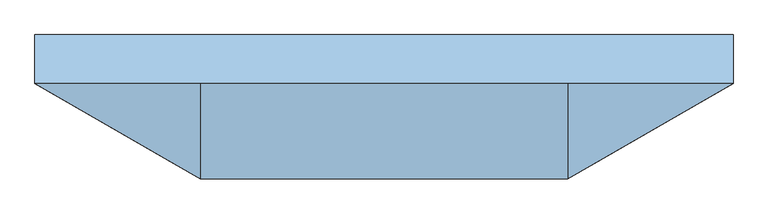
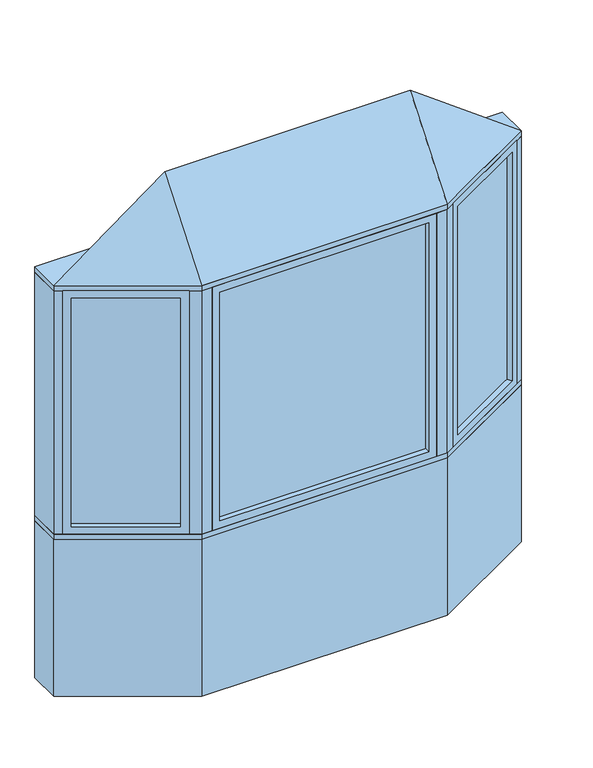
"""IFC4 building model written with IfcOpenShell, lengths in millimetres: window geometry, Pollard_Windows_Tudor Casement Bows and Bays : AML-BAY 30 AFR0512-12-500."""

from ifc_helpers import new_model, si_unit, frame, origin, origin_with_axes, place, context, project, spatial, polyline, outline, extrude, faceted_brep, source, transform, mapped, element, save


def window_68b13da7(model_context):
    return source(origin(), model_context, "Body", "SolidModel", [
        extrude(outline(polyline([(1026.612102, -82.0482469), (623.7320119, -314.6511754), (621.1920119, -310.2517664), (1024.072102, -77.6488379), (1026.612102, -82.0482469)])), frame((0.0, 0.0, 823.1628), z_axis=(0.0, 0.0, 1.0), x_axis=(1.0, 0.0, 0.0)), (0.0, 0.0, 1.0), 1153.6704),
        faceted_brep([(1015.6135794, -88.3982469, 835.8628), (1028.3135794, -110.3952922, 835.8628), (1028.3135794, -110.3952922, 1964.1332), (1015.6135794, -88.3982469, 1964.1332), (1024.072102, -77.6488379, 823.1628), (1026.612102, -82.0482469, 823.1628), (1026.612102, -82.0482469, 1976.8332), (1024.072102, -77.6488379, 1976.8332), (1000.3735794, -62.0017926, 835.8628), (1013.0735794, -83.9988379, 835.8628), (1013.0735794, -83.9988379, 1964.1332), (1000.3735794, -62.0017926, 1964.1332), (1059.3734073, -92.4628922, 799.998), (1031.4334073, -44.0693926, 799.998), (1031.4334073, -44.0693926, 1999.998), (1059.3734073, -92.4628922, 1999.998), (647.4305346, -330.2982207, 1964.1332), (634.7305346, -308.3011754, 1964.1332), (623.7320119, -314.6511754, 1976.8332), (621.1920119, -310.2517664, 1976.8332), (632.1905346, -303.9017664, 1964.1332), (619.4905346, -281.9047211, 1964.1332), (588.4307067, -299.8371211, 1999.998), (616.3707067, -348.2306207, 1999.998), (647.4305346, -330.2982207, 835.8628), (634.7305346, -308.3011754, 835.8628), (623.7320119, -314.6511754, 823.1628), (621.1920119, -310.2517664, 823.1628), (632.1905346, -303.9017664, 835.8628), (619.4905346, -281.9047211, 835.8628), (588.4307067, -299.8371211, 799.998), (616.3707067, -348.2306207, 799.998)], [[[0, 1, 2, 3]], [[4, 5, 6, 7]], [[8, 9, 10, 11]], [[12, 13, 14, 15]], [[3, 2, 16, 17]], [[7, 6, 18, 19]], [[11, 10, 20, 21]], [[15, 14, 22, 23]], [[17, 16, 24, 25]], [[19, 18, 26, 27]], [[21, 20, 28, 29]], [[23, 22, 30, 31]], [[25, 24, 1, 0]], [[5, 26, 18, 6], [3, 17, 25, 0]], [[27, 26, 5, 4]], [[7, 19, 27, 4], [9, 28, 20, 10]], [[29, 28, 9, 8]], [[13, 30, 22, 14], [11, 21, 29, 8]], [[31, 30, 13, 12]], [[15, 23, 31, 12], [1, 24, 16, 2]]]),
        extrude(outline(polyline([(-623.7320119, -314.6511754), (-1026.612102, -82.0482469), (-1024.072102, -77.6488379), (-621.1920119, -310.2517664), (-623.7320119, -314.6511754)])), frame((0.0, 0.0, 823.1628), z_axis=(0.0, 0.0, 1.0), x_axis=(1.0, 0.0, 0.0)), (0.0, 0.0, 1.0), 1153.6704),
        faceted_brep([(-632.1905346, -303.9017664, 1964.1332), (-619.4905346, -281.9047211, 1964.1332), (-619.4905346, -281.9047211, 835.8628), (-632.1905346, -303.9017664, 835.8628), (-623.7320119, -314.6511754, 1976.8332), (-621.1920119, -310.2517664, 1976.8332), (-621.1920119, -310.2517664, 823.1628), (-623.7320119, -314.6511754, 823.1628), (-647.4305346, -330.2982207, 1964.1332), (-634.7305346, -308.3011754, 1964.1332), (-634.7305346, -308.3011754, 835.8628), (-647.4305346, -330.2982207, 835.8628), (-588.4307067, -299.8371211, 1999.998), (-616.3707067, -348.2306207, 1999.998), (-616.3707067, -348.2306207, 799.998), (-588.4307067, -299.8371211, 799.998), (-1000.3735794, -62.0017926, 835.8628), (-1013.0735794, -83.9988379, 835.8628), (-1024.072102, -77.6488379, 823.1628), (-1026.612102, -82.0482469, 823.1628), (-1015.6135794, -88.3982469, 835.8628), (-1028.3135794, -110.3952922, 835.8628), (-1059.3734073, -92.4628922, 799.998), (-1031.4334073, -44.0693926, 799.998), (-1000.3735794, -62.0017926, 1964.1332), (-1013.0735794, -83.9988379, 1964.1332), (-1024.072102, -77.6488379, 1976.8332), (-1026.612102, -82.0482469, 1976.8332), (-1015.6135794, -88.3982469, 1964.1332), (-1028.3135794, -110.3952922, 1964.1332), (-1059.3734073, -92.4628922, 1999.998), (-1031.4334073, -44.0693926, 1999.998)], [[[0, 1, 2, 3]], [[4, 5, 6, 7]], [[8, 9, 10, 11]], [[12, 13, 14, 15]], [[3, 2, 16, 17]], [[7, 6, 18, 19]], [[11, 10, 20, 21]], [[15, 14, 22, 23]], [[17, 16, 24, 25]], [[19, 18, 26, 27]], [[21, 20, 28, 29]], [[23, 22, 30, 31]], [[15, 23, 31, 12], [1, 24, 16, 2]], [[25, 24, 1, 0]], [[5, 26, 18, 6], [3, 17, 25, 0]], [[27, 26, 5, 4]], [[7, 19, 27, 4], [9, 28, 20, 10]], [[29, 28, 9, 8]], [[13, 30, 22, 14], [11, 21, 29, 8]], [[31, 30, 13, 12]]]),
        extrude(outline(polyline([(499.9046365, -347.8306207), (-499.9046365, -347.8306207), (-499.9046365, -342.7506207), (499.9046365, -342.7506207), (499.9046365, -347.8306207)])), frame((0.0, 0.0, 823.1628), z_axis=(0.0, 0.0, 1.0), x_axis=(1.0, 0.0, 0.0)), (0.0, 0.0, 1.0), 1153.6704),
        faceted_brep([(487.2046365, -347.8306207, 835.8628), (487.2046365, -373.2306207, 835.8628), (487.2046365, -373.2306207, 1964.1332), (487.2046365, -347.8306207, 1964.1332), (499.9046365, -342.7506207, 823.1628), (499.9046365, -347.8306207, 823.1628), (499.9046365, -347.8306207, 1976.8332), (499.9046365, -342.7506207, 1976.8332), (487.2046365, -317.3506207, 835.8628), (487.2046365, -342.7506207, 835.8628), (487.2046365, -342.7506207, 1964.1332), (487.2046365, -317.3506207, 1964.1332), (523.0694365, -373.2306207, 799.998), (523.0694365, -317.3506207, 799.998), (523.0694365, -317.3506207, 1999.998), (523.0694365, -373.2306207, 1999.998), (-487.2046365, -373.2306207, 1964.1332), (-487.2046365, -347.8306207, 1964.1332), (-499.9046365, -347.8306207, 1976.8332), (-499.9046365, -342.7506207, 1976.8332), (-487.2046365, -342.7506207, 1964.1332), (-487.2046365, -317.3506207, 1964.1332), (-523.0694365, -317.3506207, 1999.998), (-523.0694365, -373.2306207, 1999.998), (-487.2046365, -373.2306207, 835.8628), (-487.2046365, -347.8306207, 835.8628), (-499.9046365, -347.8306207, 823.1628), (-499.9046365, -342.7506207, 823.1628), (-487.2046365, -342.7506207, 835.8628), (-487.2046365, -317.3506207, 835.8628), (-523.0694365, -317.3506207, 799.998), (-523.0694365, -373.2306207, 799.998)], [[[0, 1, 2, 3]], [[4, 5, 6, 7]], [[8, 9, 10, 11]], [[12, 13, 14, 15]], [[3, 2, 16, 17]], [[7, 6, 18, 19]], [[11, 10, 20, 21]], [[15, 14, 22, 23]], [[17, 16, 24, 25]], [[19, 18, 26, 27]], [[21, 20, 28, 29]], [[23, 22, 30, 31]], [[15, 23, 31, 12], [1, 24, 16, 2]], [[25, 24, 1, 0]], [[5, 26, 18, 6], [3, 17, 25, 0]], [[27, 26, 5, 4]], [[7, 19, 27, 4], [9, 28, 20, 10]], [[29, 28, 9, 8]], [[13, 30, 22, 14], [11, 21, 29, 8]], [[31, 30, 13, 12]]]),
        faceted_brep([(1090.0, -74.7806207, 2025.398), (573.0694365, -373.2306207, 2025.398), (-573.0694365, -373.2306207, 2025.398), (-1090.0, -74.7806207, 2025.398), (-573.0694365, -74.7806207, 2406.398), (573.0694365, -74.7806207, 2406.398)], [[[0, 1, 2, 3]], [[3, 2, 4]], [[2, 1, 5, 4]], [[1, 0, 5]], [[0, 3, 4, 5]]]),
        extrude(outline(polyline([(-1090.0, 77.6193793), (1090.0, 77.6193793), (1090.0, -74.7806207), (573.0694365, -373.2306207), (-573.0694365, -373.2306207), (-1090.0, -74.7806207), (-1090.0, 77.6193793)])), frame((0.0, 0.0, 1999.998), z_axis=(0.0, 0.0, 1.0), x_axis=(1.0, 0.0, 0.0)), (0.0, 0.0, 1.0), 25.4),
        extrude(outline(polyline([(-1090.0, -74.7806207), (-1090.0, 77.6193793), (-1049.1645431, 77.6193793), (-1049.1645431, -74.7806207), (-1059.3734073, -92.4628922), (-1090.0, -74.7806207)])), frame((0.0, 0.0, 799.998), z_axis=(0.0, 0.0, 1.0), x_axis=(1.0, 0.0, 0.0)), (0.0, 0.0, 1.0), 1200.0),
        extrude(outline(polyline([(1090.0, 77.6193793), (1090.0, -74.7806207), (1059.3734073, -92.4628922), (1049.1645431, -74.7806207), (1049.1645431, 77.6193793), (1090.0, 77.6193793)])), frame((0.0, 0.0, 799.998), z_axis=(0.0, 0.0, 1.0), x_axis=(1.0, 0.0, 0.0)), (0.0, 0.0, 1.0), 1200.0),
        extrude(outline(polyline([(573.0694365, -373.2306207), (523.0694365, -373.2306207), (523.0694365, -323.2306207), (559.6719769, -323.2306207), (591.3707067, -304.9293505), (616.3707067, -348.2306207), (573.0694365, -373.2306207)])), frame((0.0, 0.0, 799.998), z_axis=(0.0, 0.0, 1.0), x_axis=(1.0, 0.0, 0.0)), (0.0, 0.0, 1.0), 1200.0),
        extrude(outline(polyline([(-573.0694365, -373.2306207), (-616.3707067, -348.2306207), (-591.3707067, -304.9293505), (-559.6719769, -323.2306207), (-523.0694365, -323.2306207), (-523.0694365, -373.2306207), (-573.0694365, -373.2306207)])), frame((0.0, 0.0, 799.998), z_axis=(0.0, 0.0, 1.0), x_axis=(1.0, 0.0, 0.0)), (0.0, 0.0, 1.0), 1200.0),
        extrude(outline(polyline([(-573.0694365, -373.2306207), (-1090.0, -74.7806207), (-1090.0, 77.6193793), (-1049.1645431, 77.6193793), (-532.2339796, -220.8306207), (532.2339796, -220.8306207), (1049.1645431, 77.6193793), (1090.0, 77.6193793), (1090.0, -74.7806207), (573.0694365, -373.2306207), (-573.0694365, -373.2306207)])), frame((0.0, 0.0, 774.598), z_axis=(0.0, 0.0, 1.0), x_axis=(1.0, 0.0, 0.0)), (0.0, 0.0, 1.0), 25.4),
        extrude(outline(polyline([(-1090.0, -74.7806207), (-1090.0, 77.6193793), (-1049.1645431, 77.6193793), (-532.2339796, -220.8306207), (532.2339796, -220.8306207), (1049.1645431, 77.6193793), (1090.0, 77.6193793), (1090.0, -74.7806207), (573.0694365, -373.2306207), (-573.0694365, -373.2306207), (-1090.0, -74.7806207)])), origin_with_axes(), (0.0, 0.0, 1.0), 774.598),
    ])


if __name__ == "__main__":
    model = new_model("IFC4")
    model_context = context("Model", 3, world=origin())
    ifc_project = project(units=[si_unit("LENGTHUNIT", "METRE", prefix="MILLI")], contexts=[model_context])
    site = spatial("IfcSite", under=ifc_project)
    building = spatial("IfcBuilding", under=site)
    placement = place(None, origin())
    window_shape = window_68b13da7(model_context)
    element("IfcWindow", 1, ObjectType="Pollard_Windows_Tudor Casement Bows and Bays : AML-BAY 30 AFR0512-12-500", at=placement, inside=building, context=model_context, shape_type="MappedRepresentation", body=[
        mapped(window_shape, transform((0.0, 0.0, 0.0), x_axis=(1.0, 0.0, 0.0), y_axis=(0.0, 1.0, 0.0), z_axis=(0.0, 0.0, 1.0))),
    ])
    save(model, "model.ifc")
